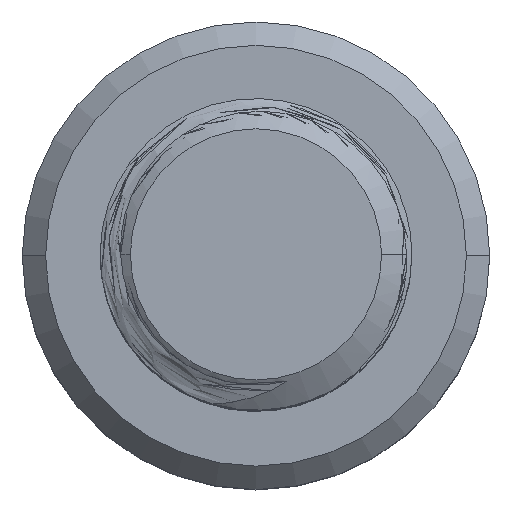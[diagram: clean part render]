
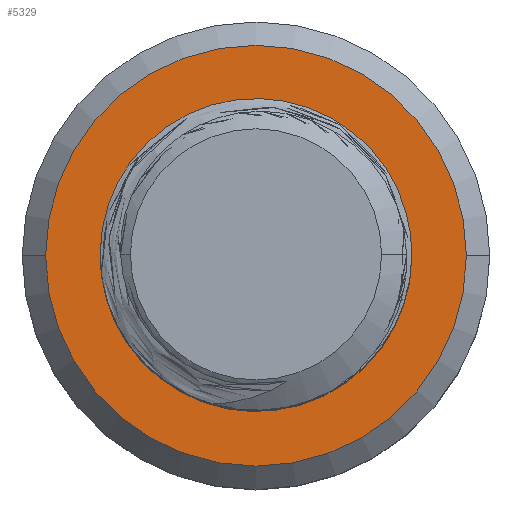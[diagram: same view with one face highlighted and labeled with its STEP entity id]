
A CAD part, top view. The second image highlights one B-rep face of the part: STEP entity #5329.
In plain terms, the highlighted planar face has unit normal (0, 0, 1).
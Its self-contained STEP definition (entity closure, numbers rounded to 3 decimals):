
#90 = CARTESIAN_POINT ( 'NONE',  ( -2.517, -6.438, -40. ) ) ;
#119 = VERTEX_POINT ( 'NONE', #938 ) ;
#182 = ORIENTED_EDGE ( 'NONE', *, *, #2611, .F. ) ;
#307 = CARTESIAN_POINT ( 'NONE',  ( -1.452, -6.696, -40. ) ) ;
#372 = FACE_OUTER_BOUND ( 'NONE', #5438, .T. ) ;
#406 = CARTESIAN_POINT ( 'NONE',  ( 6.807, 2.808, -40. ) ) ;
#449 = VERTEX_POINT ( 'NONE', #661 ) ;
#473 = CARTESIAN_POINT ( 'NONE',  ( -2.865, -6.324, -40. ) ) ;
#545 = CIRCLE ( 'NONE', #3229, 6.701 ) ;
#555 = ORIENTED_EDGE ( 'NONE', *, *, #4369, .T. ) ;
#661 = CARTESIAN_POINT ( 'NONE',  ( 0., -6.701, -40. ) ) ;
#826 = CARTESIAN_POINT ( 'NONE',  ( 2.466, 7.438, -40. ) ) ;
#850 = CARTESIAN_POINT ( 'NONE',  ( 7.068, 1.755, -40. ) ) ;
#931 = AXIS2_PLACEMENT_3D ( 'NONE', #5210, #5637, #3072 ) ;
#938 = CARTESIAN_POINT ( 'NONE',  ( 10.8, 0., -40. ) ) ;
#961 = CARTESIAN_POINT ( 'NONE',  ( -10.8, 0., -40. ) ) ;
#1031 = CARTESIAN_POINT ( 'NONE',  ( -3.855, -5.881, -40. ) ) ;
#1097 = CARTESIAN_POINT ( 'NONE',  ( -5.324, -4.812, -40. ) ) ;
#1107 = CARTESIAN_POINT ( 'NONE',  ( 4.695, -4.781, -40. ) ) ;
#1136 = ORIENTED_EDGE ( 'NONE', *, *, #3046, .T. ) ;
#1139 = CIRCLE ( 'NONE', #4586, 10.8 ) ;
#1154 = B_SPLINE_CURVE_WITH_KNOTS ( 'NONE', 3,
 ( #3965, #3540, #307, #90, #473, #1702, #1031, #3210, #4976, #1097, #5651, #5631, #5259, #5246, #5227, #5202, #4828, #4815, #3042, #4790, #4771, #4752, #4728, #4420, #4401, #4376, #4362, #4343, #4318, #4294, #3980, #3959 ),
 .UNSPECIFIED., .F., .F.,
 ( 4, 2, 2, 2, 2, 2, 2, 2, 2, 2, 2, 2, 2, 2, 2, 4 ),
 ( 0., 0.002, 0.003, 0.004, 0.005, 0.007, 0.008, 0.009, 0.01, 0.011, 0.012, 0.013, 0.014, 0.015, 0.016, 0.017 ),
 .UNSPECIFIED. ) ;
#1276 = CARTESIAN_POINT ( 'NONE',  ( 3.444, 6.95, -40. ) ) ;
#1300 = CARTESIAN_POINT ( 'NONE',  ( 7.166, 0.664, -40. ) ) ;
#1401 = ORIENTED_EDGE ( 'NONE', *, *, #2577, .T. ) ;
#1591 = EDGE_CURVE ( 'NONE', #5267, #449, #545, .T. ) ;
#1662 = EDGE_CURVE ( 'NONE', #449, #3868, #1154, .T. ) ;
#1702 = CARTESIAN_POINT ( 'NONE',  ( -3.533, -6.045, -40. ) ) ;
#1741 = CARTESIAN_POINT ( 'NONE',  ( 4.337, 6.333, -40. ) ) ;
#1767 = CARTESIAN_POINT ( 'NONE',  ( 7.097, -0.419, -40. ) ) ;
#1771 = CARTESIAN_POINT ( 'NONE',  ( 0., 0., -40. ) ) ;
#1790 = CARTESIAN_POINT ( 'NONE',  ( 0., 0., -40. ) ) ;
#1817 = DIRECTION ( 'NONE',  ( 0., 0., -1. ) ) ;
#1826 = CARTESIAN_POINT ( 'NONE',  ( 0., 0., -40. ) ) ;
#2197 = CARTESIAN_POINT ( 'NONE',  ( 5.141, 5.589, -40. ) ) ;
#2221 = CARTESIAN_POINT ( 'NONE',  ( 6.774, -1.843, -40. ) ) ;
#2225 = DIRECTION ( 'NONE',  ( 1., 0., 0. ) ) ;
#2240 = DIRECTION ( 'NONE',  ( 1., 0., 0. ) ) ;
#2268 = AXIS2_PLACEMENT_3D ( 'NONE', #1790, #4782, #2240 ) ;
#2274 = DIRECTION ( 'NONE',  ( -1., 0., 0. ) ) ;
#2435 = DIRECTION ( 'NONE',  ( 0., 0., 1. ) ) ;
#2577 = EDGE_CURVE ( 'NONE', #2591, #5267, #5490, .T. ) ;
#2591 = VERTEX_POINT ( 'NONE', #3506 ) ;
#2611 = EDGE_CURVE ( 'NONE', #2591, #3868, #5405, .T. ) ;
#2639 = CARTESIAN_POINT ( 'NONE',  ( 6.026, 4.446, -40. ) ) ;
#2657 = CARTESIAN_POINT ( 'NONE',  ( 5.73, -3.762, -40. ) ) ;
#3035 = CARTESIAN_POINT ( 'NONE',  ( 0., 8., -40. ) ) ;
#3042 = CARTESIAN_POINT ( 'NONE',  ( -7.49, -0.697, -40. ) ) ;
#3046 = EDGE_CURVE ( 'NONE', #5078, #119, #1139, .T. ) ;
#3053 = CARTESIAN_POINT ( 'NONE',  ( 6.546, 3.481, -40. ) ) ;
#3072 = DIRECTION ( 'NONE',  ( -1., 0., 0. ) ) ;
#3079 = CARTESIAN_POINT ( 'NONE',  ( 4.695, -4.781, -40. ) ) ;
#3210 = CARTESIAN_POINT ( 'NONE',  ( -4.476, -5.5, -40. ) ) ;
#3229 = AXIS2_PLACEMENT_3D ( 'NONE', #1771, #1817, #2225 ) ;
#3259 = ORIENTED_EDGE ( 'NONE', *, *, #1591, .T. ) ;
#3342 = CIRCLE ( 'NONE', #4312, 10.8 ) ;
#3422 = EDGE_LOOP ( 'NONE', ( #182, #1401, #3259, #4848 ) ) ;
#3457 = CARTESIAN_POINT ( 'NONE',  ( 1.44, 7.807, -40. ) ) ;
#3482 = CARTESIAN_POINT ( 'NONE',  ( 6.911, 2.462, -40. ) ) ;
#3506 = CARTESIAN_POINT ( 'NONE',  ( 0., 8., -40. ) ) ;
#3540 = CARTESIAN_POINT ( 'NONE',  ( -0.731, -6.756, -40. ) ) ;
#3868 = VERTEX_POINT ( 'NONE', #4993 ) ;
#3887 = CARTESIAN_POINT ( 'NONE',  ( 2.803, 7.289, -40. ) ) ;
#3910 = CARTESIAN_POINT ( 'NONE',  ( 7.12, 1.389, -40. ) ) ;
#3959 = CARTESIAN_POINT ( 'NONE',  ( -5.605, 5.708, -40. ) ) ;
#3965 = CARTESIAN_POINT ( 'NONE',  ( 0., -6.701, -40. ) ) ;
#3980 = CARTESIAN_POINT ( 'NONE',  ( -5.848, 5.434, -40. ) ) ;
#4294 = CARTESIAN_POINT ( 'NONE',  ( -6.072, 5.143, -40. ) ) ;
#4310 = CARTESIAN_POINT ( 'NONE',  ( 3.751, 6.759, -40. ) ) ;
#4312 = AXIS2_PLACEMENT_3D ( 'NONE', #4989, #2435, #5429 ) ;
#4318 = CARTESIAN_POINT ( 'NONE',  ( -6.475, 4.541, -40. ) ) ;
#4334 = CARTESIAN_POINT ( 'NONE',  ( 7.161, 0.302, -40. ) ) ;
#4343 = CARTESIAN_POINT ( 'NONE',  ( -6.656, 4.227, -40. ) ) ;
#4362 = CARTESIAN_POINT ( 'NONE',  ( -6.976, 3.577, -40. ) ) ;
#4369 = EDGE_CURVE ( 'NONE', #119, #5078, #3342, .T. ) ;
#4376 = CARTESIAN_POINT ( 'NONE',  ( -7.113, 3.236, -40. ) ) ;
#4401 = CARTESIAN_POINT ( 'NONE',  ( -7.337, 2.542, -40. ) ) ;
#4420 = CARTESIAN_POINT ( 'NONE',  ( -7.423, 2.191, -40. ) ) ;
#4586 = AXIS2_PLACEMENT_3D ( 'NONE', #1826, #4819, #2274 ) ;
#4728 = CARTESIAN_POINT ( 'NONE',  ( -7.543, 1.478, -40. ) ) ;
#4745 = CARTESIAN_POINT ( 'NONE',  ( 4.618, 6.097, -40. ) ) ;
#4752 = CARTESIAN_POINT ( 'NONE',  ( -7.578, 1.117, -40. ) ) ;
#4764 = CARTESIAN_POINT ( 'NONE',  ( 7.036, -0.781, -40. ) ) ;
#4771 = CARTESIAN_POINT ( 'NONE',  ( -7.595, 0.385, -40. ) ) ;
#4782 = DIRECTION ( 'NONE',  ( 0., 0., 1. ) ) ;
#4790 = CARTESIAN_POINT ( 'NONE',  ( -7.577, 0.021, -40. ) ) ;
#4815 = CARTESIAN_POINT ( 'NONE',  ( -7.421, -1.052, -40. ) ) ;
#4819 = DIRECTION ( 'NONE',  ( 0., 0., 1. ) ) ;
#4828 = CARTESIAN_POINT ( 'NONE',  ( -7.23, -1.754, -40. ) ) ;
#4848 = ORIENTED_EDGE ( 'NONE', *, *, #1662, .T. ) ;
#4976 = CARTESIAN_POINT ( 'NONE',  ( -4.773, -5.283, -40. ) ) ;
#4989 = CARTESIAN_POINT ( 'NONE',  ( 0., 0., -40. ) ) ;
#4993 = CARTESIAN_POINT ( 'NONE',  ( -5.605, 5.708, -40. ) ) ;
#5078 = VERTEX_POINT ( 'NONE', #961 ) ;
#5171 = CARTESIAN_POINT ( 'NONE',  ( 0.732, 7.954, -40. ) ) ;
#5188 = PLANE ( 'NONE',  #931 ) ;
#5195 = CARTESIAN_POINT ( 'NONE',  ( 5.624, 5.049, -40. ) ) ;
#5202 = CARTESIAN_POINT ( 'NONE',  ( -7.108, -2.102, -40. ) ) ;
#5210 = CARTESIAN_POINT ( 'NONE',  ( 0., 0., -40. ) ) ;
#5218 = CARTESIAN_POINT ( 'NONE',  ( 6.495, -2.512, -40. ) ) ;
#5227 = CARTESIAN_POINT ( 'NONE',  ( -6.818, -2.767, -40. ) ) ;
#5246 = CARTESIAN_POINT ( 'NONE',  ( -6.651, -3.088, -40. ) ) ;
#5259 = CARTESIAN_POINT ( 'NONE',  ( -6.268, -3.706, -40. ) ) ;
#5267 = VERTEX_POINT ( 'NONE', #1107 ) ;
#5329 = ADVANCED_FACE ( 'NONE', ( #372, #5344 ), #5188, .F. ) ;
#5344 = FACE_BOUND ( 'NONE', #3422, .T. ) ;
#5405 = CIRCLE ( 'NONE', #2268, 8. ) ;
#5429 = DIRECTION ( 'NONE',  ( -1., 0., 0. ) ) ;
#5438 = EDGE_LOOP ( 'NONE', ( #1136, #555 ) ) ;
#5490 = B_SPLINE_CURVE_WITH_KNOTS ( 'NONE', 3,
 ( #3035, #5171, #3457, #826, #3887, #1276, #4310, #1741, #4745, #2197, #5195, #2639, #5622, #3053, #406, #3482, #850, #3910, #1300, #4334, #1767, #4764, #2221, #5218, #2657, #5645, #3079 ),
 .UNSPECIFIED., .F., .F.,
 ( 4, 2, 2, 2, 2, 1, 2, 2, 2, 2, 2, 2, 2, 4 ),
 ( 0., 0.002, 0.003, 0.004, 0.005, 0.007, 0.008, 0.009, 0.01, 0.011, 0.012, 0.013, 0.015, 0.017 ),
 .UNSPECIFIED. ) ;
#5622 = CARTESIAN_POINT ( 'NONE',  ( 6.388, 3.811, -40. ) ) ;
#5631 = CARTESIAN_POINT ( 'NONE',  ( -6.052, -4.005, -40. ) ) ;
#5637 = DIRECTION ( 'NONE',  ( 0., 0., -1. ) ) ;
#5645 = CARTESIAN_POINT ( 'NONE',  ( 5.26, -4.312, -40. ) ) ;
#5651 = CARTESIAN_POINT ( 'NONE',  ( -5.58, -4.557, -40. ) ) ;
